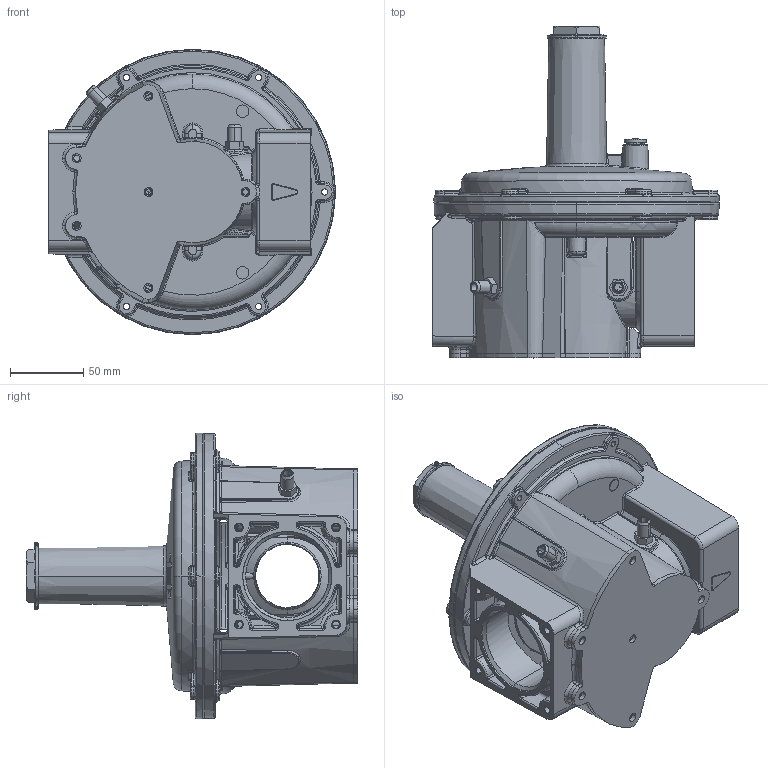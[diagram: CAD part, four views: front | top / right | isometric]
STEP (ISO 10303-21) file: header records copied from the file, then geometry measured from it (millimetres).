
FILE_DESCRIPTION (( 'STEP AP203' ), '1' );
FILE_NAME ('009.0225.101-4.STEP', '2014-01-13T15:57:17', ( 'Adminwatts' ), ( 'Microsoft' ), 'SwSTEP 2.0', 'SolidWorks 2012', '' );
FILE_SCHEMA (( 'CONFIG_CONTROL_DESIGN' ));
Length unit declared in the file: millimetre
Products named in the file (1): 009.0225.101-4
Bounding box: 195.12 x 225.8 x 194.25 mm (x, y, z)
Surface area: 214303.1 mm2 (no closed solid volume)
Topology: 0 solids, 22 shells, 1311 faces, 4098 edges, 2666 vertices
Faces by surface type: bspline 344, cylinder 309, plane 289, torus 178, cone 159, sphere 32
Entity records: 59497 total; most frequent: CARTESIAN_POINT 27193, ORIENTED_EDGE 6788, DIRECTION 6098, EDGE_CURVE 4057, VERTEX_POINT 2666, AXIS2_PLACEMENT_3D 2464, CIRCLE 1496, EDGE_LOOP 1424
